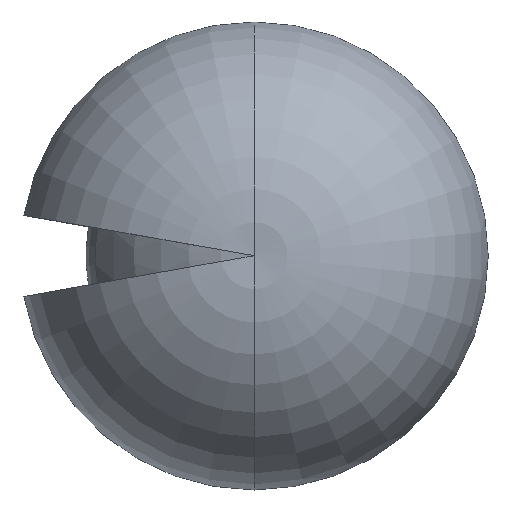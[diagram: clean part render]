
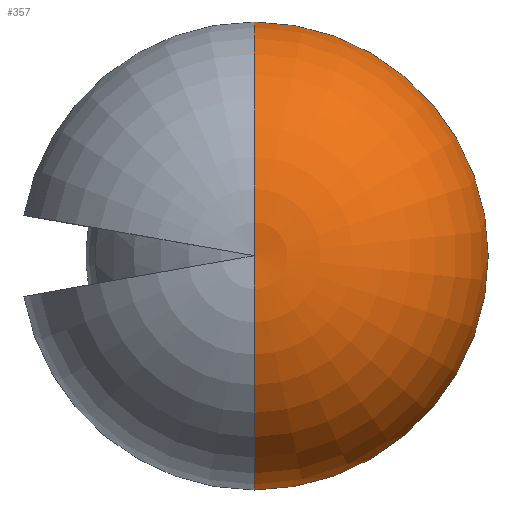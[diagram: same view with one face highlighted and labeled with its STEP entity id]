
A CAD part, top view. The second image highlights one B-rep face of the part: STEP entity #357.
In plain terms, the highlighted toroidal (fillet/blend) face has major radius 320 mm and minor radius 2344.87 mm.
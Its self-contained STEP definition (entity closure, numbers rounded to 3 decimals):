
#10 = AXIS2_PLACEMENT_3D ( 'NONE', #239, #36, #405 ) ;
#27 = DIRECTION ( 'NONE',  ( 0., 0., -1. ) ) ;
#36 = DIRECTION ( 'NONE',  ( -1., 0., 0. ) ) ;
#54 = AXIS2_PLACEMENT_3D ( 'NONE', #204, #129, #370 ) ;
#62 = VERTEX_POINT ( 'NONE', #121 ) ;
#66 = CARTESIAN_POINT ( 'NONE',  ( 0., 0., 3102.936 ) ) ;
#78 = EDGE_CURVE ( 'NONE', #269, #62, #491, .T. ) ;
#91 = CIRCLE ( 'NONE', #193, 2655.95 ) ;
#121 = CARTESIAN_POINT ( 'NONE',  ( 0., 2655.95, 984.369 ) ) ;
#129 = DIRECTION ( 'NONE',  ( 1., 0., 0. ) ) ;
#193 = AXIS2_PLACEMENT_3D ( 'NONE', #230, #27, #397 ) ;
#204 = CARTESIAN_POINT ( 'NONE',  ( 0., -320., 780. ) ) ;
#221 = TOROIDAL_SURFACE ( 'NONE', #232, 320., 2344.873 ) ;
#230 = CARTESIAN_POINT ( 'NONE',  ( 0., 0., 984.369 ) ) ;
#232 = AXIS2_PLACEMENT_3D ( 'NONE', #454, #285, #366 ) ;
#239 = CARTESIAN_POINT ( 'NONE',  ( 0., 320., 780. ) ) ;
#269 = VERTEX_POINT ( 'NONE', #66 ) ;
#285 = DIRECTION ( 'NONE',  ( 0., 0., -1. ) ) ;
#289 = FACE_OUTER_BOUND ( 'NONE', #505, .T. ) ;
#295 = ORIENTED_EDGE ( 'NONE', *, *, #78, .F. ) ;
#310 = EDGE_CURVE ( 'NONE', #62, #439, #91, .T. ) ;
#357 = ADVANCED_FACE ( 'NONE', ( #289 ), #221, .T. ) ;
#366 = DIRECTION ( 'NONE',  ( 0., 1., 0. ) ) ;
#370 = DIRECTION ( 'NONE',  ( 0., 1., 0. ) ) ;
#397 = DIRECTION ( 'NONE',  ( 0., 1., 0. ) ) ;
#405 = DIRECTION ( 'NONE',  ( 0., 0., 1. ) ) ;
#409 = CIRCLE ( 'NONE', #54, 2344.873 ) ;
#429 = ORIENTED_EDGE ( 'NONE', *, *, #310, .F. ) ;
#439 = VERTEX_POINT ( 'NONE', #441 ) ;
#441 = CARTESIAN_POINT ( 'NONE',  ( 0., -2655.95, 984.369 ) ) ;
#454 = CARTESIAN_POINT ( 'NONE',  ( 0., 0., 780. ) ) ;
#467 = EDGE_CURVE ( 'NONE', #269, #439, #409, .T. ) ;
#471 = ORIENTED_EDGE ( 'NONE', *, *, #467, .T. ) ;
#491 = CIRCLE ( 'NONE', #10, 2344.873 ) ;
#505 = EDGE_LOOP ( 'NONE', ( #295, #471, #429 ) ) ;
